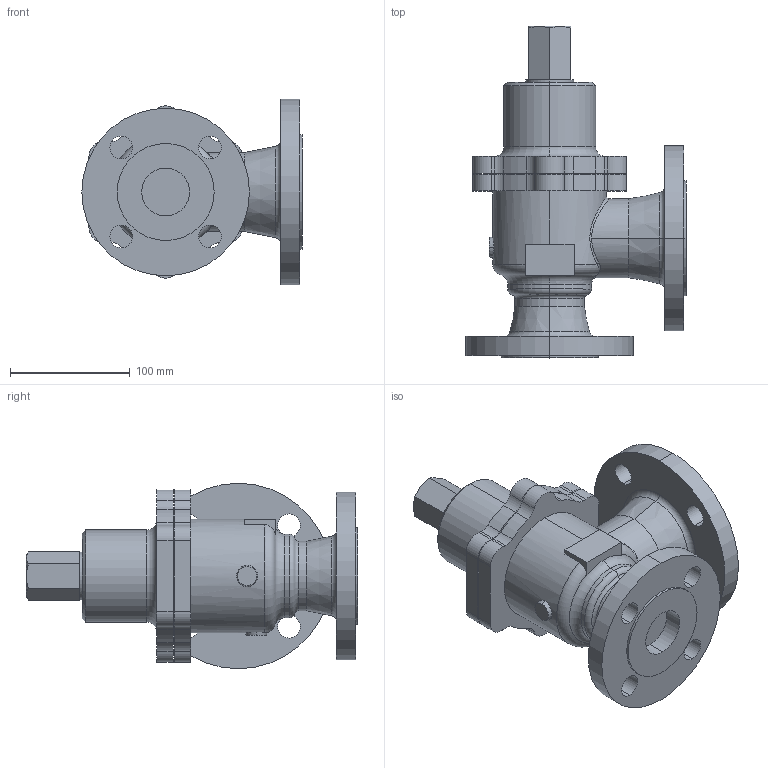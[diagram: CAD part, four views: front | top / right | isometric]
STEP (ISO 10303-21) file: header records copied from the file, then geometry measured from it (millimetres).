
FILE_DESCRIPTION (( 'STEP AP203' ), '1' );
FILE_NAME ('AL-31 40A.STEP', '2026-01-13T07:18:54', ( '' ), ( '' ), 'SwSTEP 2.0', 'SolidWorks 2024', '' );
FILE_SCHEMA (( 'CONFIG_CONTROL_DESIGN' ));
Length unit declared in the file: millimetre
Products named in the file (1): AL-31 40A
Bounding box: 184 x 277.3 x 155 mm (x, y, z)
Volume: 2070081.6 mm3; surface area: 188614.9 mm2
Topology: 1 solids, 1 shells, 162 faces, 404 edges, 256 vertices
Faces by surface type: cylinder 88, plane 44, torus 14, cone 12, bspline 4
Entity records: 6157 total; most frequent: CARTESIAN_POINT 2043, DIRECTION 925, ORIENTED_EDGE 808, EDGE_CURVE 404, AXIS2_PLACEMENT_3D 389, VERTEX_POINT 256, CIRCLE 230, EDGE_LOOP 190
